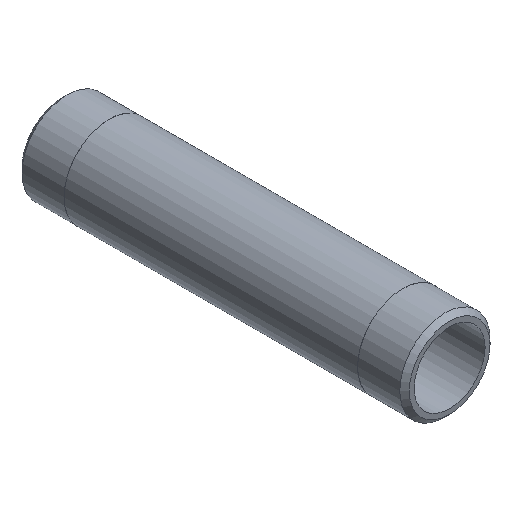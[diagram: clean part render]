
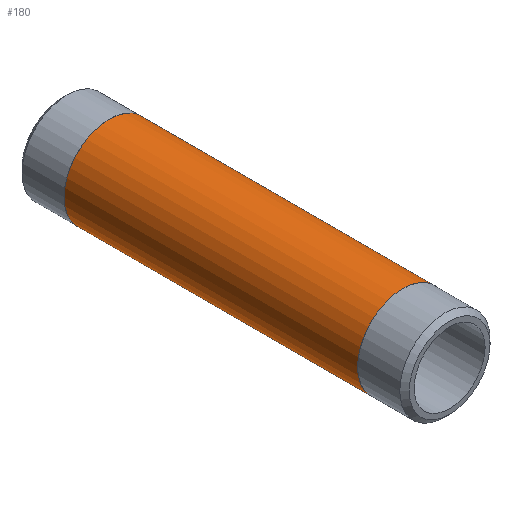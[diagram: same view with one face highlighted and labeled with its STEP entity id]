
A CAD part, isometric view. The second image highlights one B-rep face of the part: STEP entity #180.
In plain terms, the highlighted cylindrical face has radius 13.335 mm (diameter 26.67 mm), a full revolution.
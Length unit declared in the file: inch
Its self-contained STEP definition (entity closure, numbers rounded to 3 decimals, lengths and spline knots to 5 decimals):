
#25=CYLINDRICAL_SURFACE('',#220,0.525);
#34=FACE_OUTER_BOUND('',#47,.T.);
#47=EDGE_LOOP('',(#155,#156,#157,#158,#159,#160));
#55=LINE('',#338,#61);
#61=VECTOR('',#283,0.525);
#77=CIRCLE('',#218,0.525);
#78=CIRCLE('',#219,0.525);
#79=CIRCLE('',#221,0.525);
#80=CIRCLE('',#222,0.525);
#95=VERTEX_POINT('',#329);
#96=VERTEX_POINT('',#330);
#97=VERTEX_POINT('',#334);
#98=VERTEX_POINT('',#335);
#117=EDGE_CURVE('',#95,#96,#77,.T.);
#118=EDGE_CURVE('',#96,#95,#78,.T.);
#119=EDGE_CURVE('',#97,#98,#79,.T.);
#120=EDGE_CURVE('',#98,#97,#80,.T.);
#121=EDGE_CURVE('',#98,#96,#55,.T.);
#155=ORIENTED_EDGE('',*,*,#119,.F.);
#156=ORIENTED_EDGE('',*,*,#120,.F.);
#157=ORIENTED_EDGE('',*,*,#121,.T.);
#158=ORIENTED_EDGE('',*,*,#118,.T.);
#159=ORIENTED_EDGE('',*,*,#117,.T.);
#160=ORIENTED_EDGE('',*,*,#121,.F.);
#180=ADVANCED_FACE('',(#34),#25,.T.);
#218=AXIS2_PLACEMENT_3D('',#331,#273,#274);
#219=AXIS2_PLACEMENT_3D('',#332,#275,#276);
#220=AXIS2_PLACEMENT_3D('',#333,#277,#278);
#221=AXIS2_PLACEMENT_3D('',#336,#279,#280);
#222=AXIS2_PLACEMENT_3D('',#337,#281,#282);
#273=DIRECTION('center_axis',(0.,-1.,0.));
#274=DIRECTION('ref_axis',(1.,0.,0.));
#275=DIRECTION('center_axis',(0.,-1.,0.));
#276=DIRECTION('ref_axis',(1.,0.,0.));
#277=DIRECTION('center_axis',(0.,-1.,0.));
#278=DIRECTION('ref_axis',(0.,0.,-1.));
#279=DIRECTION('center_axis',(0.,-1.,0.));
#280=DIRECTION('ref_axis',(1.,0.,0.));
#281=DIRECTION('center_axis',(0.,-1.,0.));
#282=DIRECTION('ref_axis',(1.,0.,0.));
#283=DIRECTION('',(0.,1.,0.));
#329=CARTESIAN_POINT('',(0.,3.955,-0.525));
#330=CARTESIAN_POINT('',(0.,3.955,0.525));
#331=CARTESIAN_POINT('Origin',(0.,3.955,0.));
#332=CARTESIAN_POINT('Origin',(0.,3.955,0.));
#333=CARTESIAN_POINT('Origin',(0.,2.25,0.));
#334=CARTESIAN_POINT('',(0.,0.545,-0.525));
#335=CARTESIAN_POINT('',(0.,0.545,0.525));
#336=CARTESIAN_POINT('Origin',(0.,0.545,0.));
#337=CARTESIAN_POINT('Origin',(0.,0.545,0.));
#338=CARTESIAN_POINT('',(0.,2.25,0.525));
